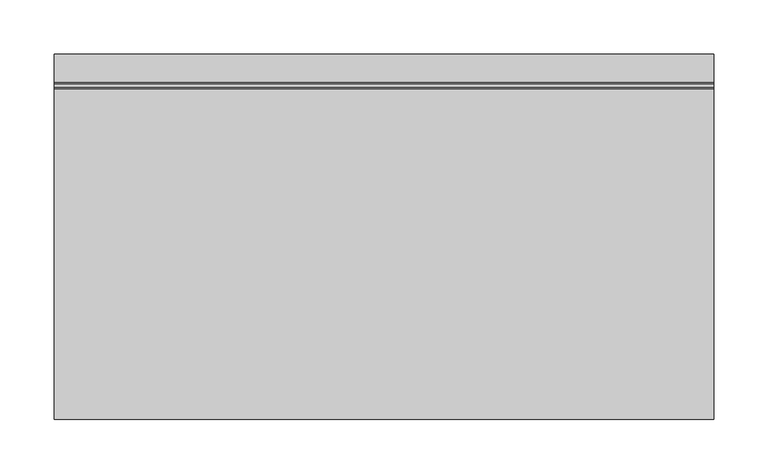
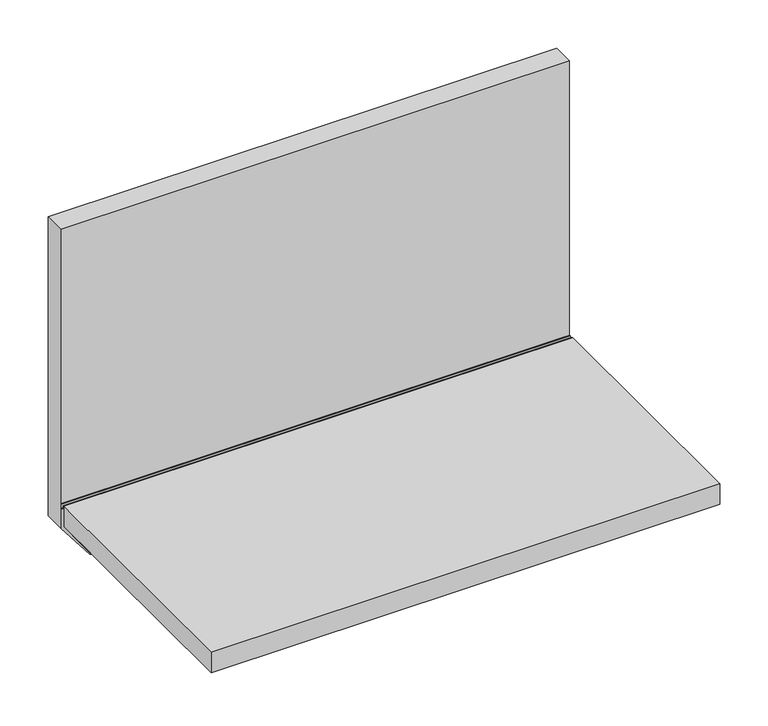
"""IFC4 building model written with IfcOpenShell, lengths in millimetres: furniture geometry, Geiger_GeigerOneCasegoods_OverheadStorageSingleShelfFullBackPanel : TFL 24Wx 13.375Dx 14.875H."""

from ifc_helpers import new_model, si_unit, point, frame, frame_2d, origin, origin_with_axes, place, context, project, spatial, polyline, circle_curve, trimmed, segment, composite_curve, outline, extrude, source, transform, mapped, element, save


def furniture_7f70c17e(model_context):
    return source(origin(), model_context, "Body", "SweptSolid", [
        extrude(outline(polyline([(609.6, -6.4077936), (609.6, -32.4077936), (0.0, -32.4077936), (0.0, -6.4077936), (609.6, -6.4077936)])), origin_with_axes(), (0.0, 0.0, 1.0), 379.0),
        extrude(outline(composite_curve([segment(polyline([(-33.9043936, 31.496), (-32.4057936, 31.496), (-32.4057936, 0.0)]), True, "CONTINUOUS"), segment(trimmed(circle_curve(frame_2d((-31.5258775, 473.2852461)), 473.2860641), [point((-32.4057936, 0.0))], [point((-93.0584748, 4.0161997))], False, "CARTESIAN"), True, "CONTINUOUS"), segment(trimmed(circle_curve(frame_2d((-92.9289669, 5.0038725)), 0.9961275), [point((-93.0584748, 4.0161997))], [point((-92.9289669, 6.0))], False, "CARTESIAN"), True, "CONTINUOUS"), segment(polyline([(-92.9289669, 6.0), (-38.9077936, 6.0), (-38.9077936, 31.496), (-37.4095936, 31.496), (-37.4095936, 26.4922), (-33.9043936, 26.4922), (-33.9043936, 31.496)]), True, "CONTINUOUS")], self_intersect=False)), frame((0.0, 0.0, 0.0), z_axis=(1.0, 0.0, 0.0), x_axis=(0.0, 1.0, 0.0)), (0.0, 0.0, 1.0), 609.6),
        extrude(outline(polyline([(609.6, -38.9077936), (609.6, -344.4077936), (0.0, -344.4077936), (0.0, -38.9077936), (609.6, -38.9077936)])), frame((0.0, 0.0, 6.0), z_axis=(0.0, 0.0, 1.0), x_axis=(1.0, 0.0, 0.0)), (0.0, 0.0, 1.0), 26.0),
    ])


if __name__ == "__main__":
    model = new_model("IFC4")
    model_context = context("Model", 3, world=origin())
    ifc_project = project(units=[si_unit("LENGTHUNIT", "METRE", prefix="MILLI")], contexts=[model_context])
    site = spatial("IfcSite", under=ifc_project)
    building = spatial("IfcBuilding", under=site)
    placement = place(None, origin())
    furniture_shape = furniture_7f70c17e(model_context)
    element("IfcFurniture", 1, ObjectType="Geiger_GeigerOneCasegoods_OverheadStorageSingleShelfFullBackPanel : TFL 24Wx 13.375Dx 14.875H", at=placement, inside=building, context=model_context, shape_type="MappedRepresentation", body=[
        mapped(furniture_shape, transform((0.0, 0.0, 0.0), x_axis=(1.0, 0.0, 0.0), y_axis=(0.0, 1.0, 0.0), z_axis=(0.0, 0.0, 1.0))),
    ])
    save(model, "model.ifc")
